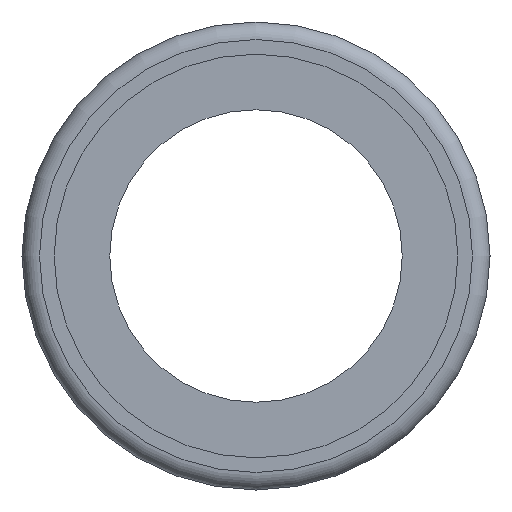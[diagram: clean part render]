
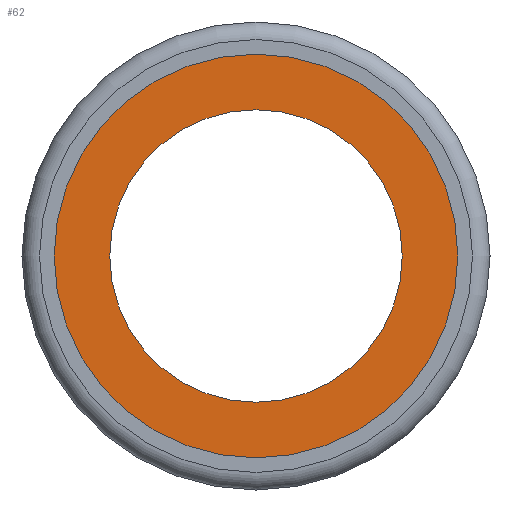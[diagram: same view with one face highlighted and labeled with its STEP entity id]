
A CAD part, left-side view. The second image highlights one B-rep face of the part: STEP entity #62.
In plain terms, the highlighted planar face has unit normal (-1, 0, 0).
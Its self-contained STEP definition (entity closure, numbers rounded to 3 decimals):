
#62 = ADVANCED_FACE( '', ( #135, #136 ), #137, .T. );
#135 = FACE_BOUND( '', #214, .T. );
#136 = FACE_OUTER_BOUND( '', #215, .T. );
#137 = PLANE( '', #216 );
#214 = EDGE_LOOP( '', ( #307 ) );
#215 = EDGE_LOOP( '', ( #308 ) );
#216 = AXIS2_PLACEMENT_3D( '', #309, #310, #311 );
#307 = ORIENTED_EDGE( '', *, *, #359, .F. );
#308 = ORIENTED_EDGE( '', *, *, #364, .T. );
#309 = CARTESIAN_POINT( '', ( 5.6, 14.875, 0. ) );
#310 = DIRECTION( '', ( -1., 0., 0. ) );
#311 = DIRECTION( '', ( 0., 1., 0. ) );
#359 = EDGE_CURVE( '', #398, #398, #399, .T. );
#364 = EDGE_CURVE( '', #406, #406, #407, .T. );
#398 = VERTEX_POINT( '', #452 );
#399 = CIRCLE( '', #453, 12.5 );
#406 = VERTEX_POINT( '', #460 );
#407 = CIRCLE( '', #461, 17.25 );
#452 = CARTESIAN_POINT( '', ( 5.6, -12.5, 0. ) );
#453 = AXIS2_PLACEMENT_3D( '', #507, #508, #509 );
#460 = CARTESIAN_POINT( '', ( 5.6, -17.25, 0. ) );
#461 = AXIS2_PLACEMENT_3D( '', #516, #517, #518 );
#507 = CARTESIAN_POINT( '', ( 5.6, 0., 0. ) );
#508 = DIRECTION( '', ( -1., 0., 0. ) );
#509 = DIRECTION( '', ( 0., -1., 0. ) );
#516 = CARTESIAN_POINT( '', ( 5.6, 0., 0. ) );
#517 = DIRECTION( '', ( -1., 0., 0. ) );
#518 = DIRECTION( '', ( 0., -1., 0. ) );
